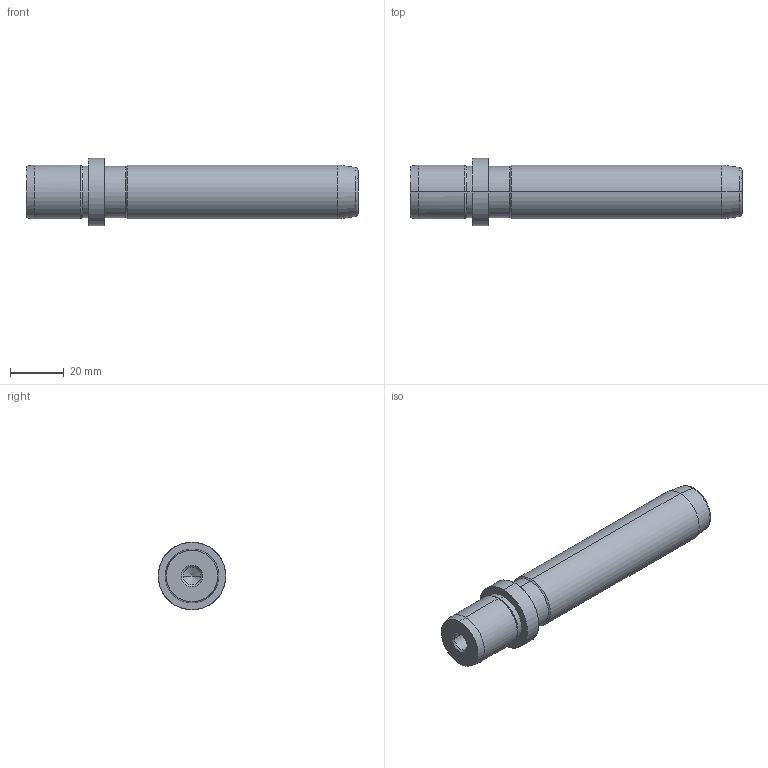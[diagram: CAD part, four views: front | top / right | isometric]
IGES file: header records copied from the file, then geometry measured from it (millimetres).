
Start section: START RECORD GO HERE.
Global section: file name: 719-20x100.igs; native system: DASSAULT SYSTEMES CATIA V5 R20 - www.3ds.com; preprocessor: CATIA Version 5 Release 20 ; author: Utente; organization: NB04-ASUS; date: 20210103.185926; units: millimetre
Bounding box: 123 x 25 x 25 mm (x, y, z)
Surface area: 9721.7 mm2 (no closed solid volume)
Topology: 0 solids, 0 shells, 36 faces, 196 edges, 192 vertices
Faces by surface type: revolution 32, plane 4
